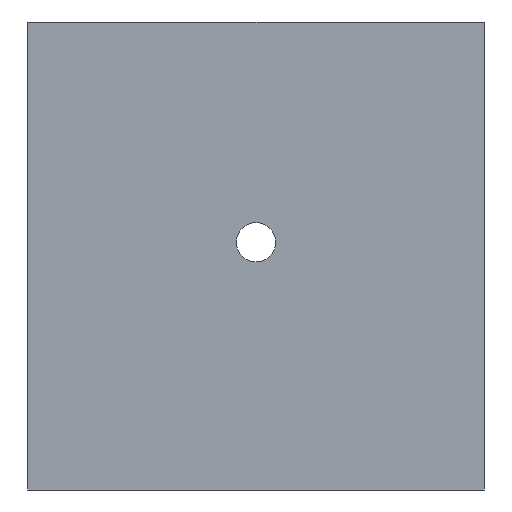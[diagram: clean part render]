
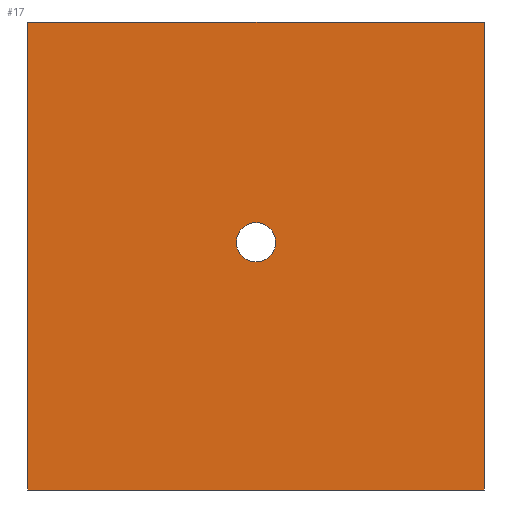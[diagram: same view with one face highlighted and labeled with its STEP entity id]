
A CAD part, left-side view. The second image highlights one B-rep face of the part: STEP entity #17.
In plain terms, the highlighted planar face has unit normal (-1, 0, 0).
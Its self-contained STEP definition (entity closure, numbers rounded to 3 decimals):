
#17 = ADVANCED_FACE('',(#18,#137),#32,.F.);
#18 = FACE_BOUND('',#19,.F.);
#19 = EDGE_LOOP('',(#20,#55,#83,#111));
#20 = ORIENTED_EDGE('',*,*,#21,.F.);
#21 = EDGE_CURVE('',#22,#24,#26,.T.);
#22 = VERTEX_POINT('',#23);
#23 = CARTESIAN_POINT('',(0.,-25.,0.));
#24 = VERTEX_POINT('',#25);
#25 = CARTESIAN_POINT('',(0.,-25.,51.3));
#26 = SURFACE_CURVE('',#27,(#31,#43),.PCURVE_S1.);
#27 = LINE('',#28,#29);
#28 = CARTESIAN_POINT('',(0.,-25.,0.));
#29 = VECTOR('',#30,1.);
#30 = DIRECTION('',(0.,0.,1.));
#31 = PCURVE('',#32,#37);
#32 = PLANE('',#33);
#33 = AXIS2_PLACEMENT_3D('',#34,#35,#36);
#34 = CARTESIAN_POINT('',(0.,-25.,0.));
#35 = DIRECTION('',(1.,0.,0.));
#36 = DIRECTION('',(0.,0.,1.));
#37 = DEFINITIONAL_REPRESENTATION('',(#38),#42);
#38 = LINE('',#39,#40);
#39 = CARTESIAN_POINT('',(0.,0.));
#40 = VECTOR('',#41,1.);
#41 = DIRECTION('',(1.,0.));
#42 = ( GEOMETRIC_REPRESENTATION_CONTEXT(2) 
PARAMETRIC_REPRESENTATION_CONTEXT() REPRESENTATION_CONTEXT('2D SPACE',''
  ) );
#43 = PCURVE('',#44,#49);
#44 = PLANE('',#45);
#45 = AXIS2_PLACEMENT_3D('',#46,#47,#48);
#46 = CARTESIAN_POINT('',(0.,-25.,0.));
#47 = DIRECTION('',(0.,1.,0.));
#48 = DIRECTION('',(0.,0.,1.));
#49 = DEFINITIONAL_REPRESENTATION('',(#50),#54);
#50 = LINE('',#51,#52);
#51 = CARTESIAN_POINT('',(0.,0.));
#52 = VECTOR('',#53,1.);
#53 = DIRECTION('',(1.,0.));
#54 = ( GEOMETRIC_REPRESENTATION_CONTEXT(2) 
PARAMETRIC_REPRESENTATION_CONTEXT() REPRESENTATION_CONTEXT('2D SPACE',''
  ) );
#55 = ORIENTED_EDGE('',*,*,#56,.T.);
#56 = EDGE_CURVE('',#22,#57,#59,.T.);
#57 = VERTEX_POINT('',#58);
#58 = CARTESIAN_POINT('',(0.,25.,0.));
#59 = SURFACE_CURVE('',#60,(#64,#71),.PCURVE_S1.);
#60 = LINE('',#61,#62);
#61 = CARTESIAN_POINT('',(0.,-25.,0.));
#62 = VECTOR('',#63,1.);
#63 = DIRECTION('',(0.,1.,0.));
#64 = PCURVE('',#32,#65);
#65 = DEFINITIONAL_REPRESENTATION('',(#66),#70);
#66 = LINE('',#67,#68);
#67 = CARTESIAN_POINT('',(0.,0.));
#68 = VECTOR('',#69,1.);
#69 = DIRECTION('',(0.,-1.));
#70 = ( GEOMETRIC_REPRESENTATION_CONTEXT(2) 
PARAMETRIC_REPRESENTATION_CONTEXT() REPRESENTATION_CONTEXT('2D SPACE',''
  ) );
#71 = PCURVE('',#72,#77);
#72 = PLANE('',#73);
#73 = AXIS2_PLACEMENT_3D('',#74,#75,#76);
#74 = CARTESIAN_POINT('',(0.,-25.,0.));
#75 = DIRECTION('',(0.,0.,1.));
#76 = DIRECTION('',(1.,0.,0.));
#77 = DEFINITIONAL_REPRESENTATION('',(#78),#82);
#78 = LINE('',#79,#80);
#79 = CARTESIAN_POINT('',(0.,0.));
#80 = VECTOR('',#81,1.);
#81 = DIRECTION('',(0.,1.));
#82 = ( GEOMETRIC_REPRESENTATION_CONTEXT(2) 
PARAMETRIC_REPRESENTATION_CONTEXT() REPRESENTATION_CONTEXT('2D SPACE',''
  ) );
#83 = ORIENTED_EDGE('',*,*,#84,.F.);
#84 = EDGE_CURVE('',#85,#57,#87,.T.);
#85 = VERTEX_POINT('',#86);
#86 = CARTESIAN_POINT('',(0.,25.,51.3));
#87 = SURFACE_CURVE('',#88,(#92,#99),.PCURVE_S1.);
#88 = LINE('',#89,#90);
#89 = CARTESIAN_POINT('',(0.,25.,51.3));
#90 = VECTOR('',#91,1.);
#91 = DIRECTION('',(0.,0.,-1.));
#92 = PCURVE('',#32,#93);
#93 = DEFINITIONAL_REPRESENTATION('',(#94),#98);
#94 = LINE('',#95,#96);
#95 = CARTESIAN_POINT('',(51.3,-50.));
#96 = VECTOR('',#97,1.);
#97 = DIRECTION('',(-1.,0.));
#98 = ( GEOMETRIC_REPRESENTATION_CONTEXT(2) 
PARAMETRIC_REPRESENTATION_CONTEXT() REPRESENTATION_CONTEXT('2D SPACE',''
  ) );
#99 = PCURVE('',#100,#105);
#100 = PLANE('',#101);
#101 = AXIS2_PLACEMENT_3D('',#102,#103,#104);
#102 = CARTESIAN_POINT('',(0.,25.,0.));
#103 = DIRECTION('',(0.,1.,0.));
#104 = DIRECTION('',(0.,0.,1.));
#105 = DEFINITIONAL_REPRESENTATION('',(#106),#110);
#106 = LINE('',#107,#108);
#107 = CARTESIAN_POINT('',(51.3,0.));
#108 = VECTOR('',#109,1.);
#109 = DIRECTION('',(-1.,0.));
#110 = ( GEOMETRIC_REPRESENTATION_CONTEXT(2) 
PARAMETRIC_REPRESENTATION_CONTEXT() REPRESENTATION_CONTEXT('2D SPACE',''
  ) );
#111 = ORIENTED_EDGE('',*,*,#112,.F.);
#112 = EDGE_CURVE('',#24,#85,#113,.T.);
#113 = SURFACE_CURVE('',#114,(#118,#125),.PCURVE_S1.);
#114 = LINE('',#115,#116);
#115 = CARTESIAN_POINT('',(0.,-25.,51.3));
#116 = VECTOR('',#117,1.);
#117 = DIRECTION('',(0.,1.,0.));
#118 = PCURVE('',#32,#119);
#119 = DEFINITIONAL_REPRESENTATION('',(#120),#124);
#120 = LINE('',#121,#122);
#121 = CARTESIAN_POINT('',(51.3,0.));
#122 = VECTOR('',#123,1.);
#123 = DIRECTION('',(0.,-1.));
#124 = ( GEOMETRIC_REPRESENTATION_CONTEXT(2) 
PARAMETRIC_REPRESENTATION_CONTEXT() REPRESENTATION_CONTEXT('2D SPACE',''
  ) );
#125 = PCURVE('',#126,#131);
#126 = PLANE('',#127);
#127 = AXIS2_PLACEMENT_3D('',#128,#129,#130);
#128 = CARTESIAN_POINT('',(0.,-25.,51.3));
#129 = DIRECTION('',(0.,0.,1.));
#130 = DIRECTION('',(1.,0.,0.));
#131 = DEFINITIONAL_REPRESENTATION('',(#132),#136);
#132 = LINE('',#133,#134);
#133 = CARTESIAN_POINT('',(0.,0.));
#134 = VECTOR('',#135,1.);
#135 = DIRECTION('',(0.,1.));
#136 = ( GEOMETRIC_REPRESENTATION_CONTEXT(2) 
PARAMETRIC_REPRESENTATION_CONTEXT() REPRESENTATION_CONTEXT('2D SPACE',''
  ) );
#137 = FACE_BOUND('',#138,.F.);
#138 = EDGE_LOOP('',(#139));
#139 = ORIENTED_EDGE('',*,*,#140,.F.);
#140 = EDGE_CURVE('',#141,#141,#143,.T.);
#141 = VERTEX_POINT('',#142);
#142 = CARTESIAN_POINT('',(-0.,2.15,27.15));
#143 = SURFACE_CURVE('',#144,(#149,#156),.PCURVE_S1.);
#144 = CIRCLE('',#145,2.15);
#145 = AXIS2_PLACEMENT_3D('',#146,#147,#148);
#146 = CARTESIAN_POINT('',(0.,0.,27.15));
#147 = DIRECTION('',(1.,0.,0.));
#148 = DIRECTION('',(0.,1.,0.));
#149 = PCURVE('',#32,#150);
#150 = DEFINITIONAL_REPRESENTATION('',(#151),#155);
#151 = CIRCLE('',#152,2.15);
#152 = AXIS2_PLACEMENT_2D('',#153,#154);
#153 = CARTESIAN_POINT('',(27.15,-25.));
#154 = DIRECTION('',(0.,-1.));
#155 = ( GEOMETRIC_REPRESENTATION_CONTEXT(2) 
PARAMETRIC_REPRESENTATION_CONTEXT() REPRESENTATION_CONTEXT('2D SPACE',''
  ) );
#156 = PCURVE('',#157,#162);
#157 = CYLINDRICAL_SURFACE('',#158,2.15);
#158 = AXIS2_PLACEMENT_3D('',#159,#160,#161);
#159 = CARTESIAN_POINT('',(0.,0.,27.15));
#160 = DIRECTION('',(1.,0.,0.));
#161 = DIRECTION('',(0.,1.,0.));
#162 = DEFINITIONAL_REPRESENTATION('',(#163),#167);
#163 = LINE('',#164,#165);
#164 = CARTESIAN_POINT('',(0.,0.));
#165 = VECTOR('',#166,1.);
#166 = DIRECTION('',(1.,0.));
#167 = ( GEOMETRIC_REPRESENTATION_CONTEXT(2) 
PARAMETRIC_REPRESENTATION_CONTEXT() REPRESENTATION_CONTEXT('2D SPACE',''
  ) );
